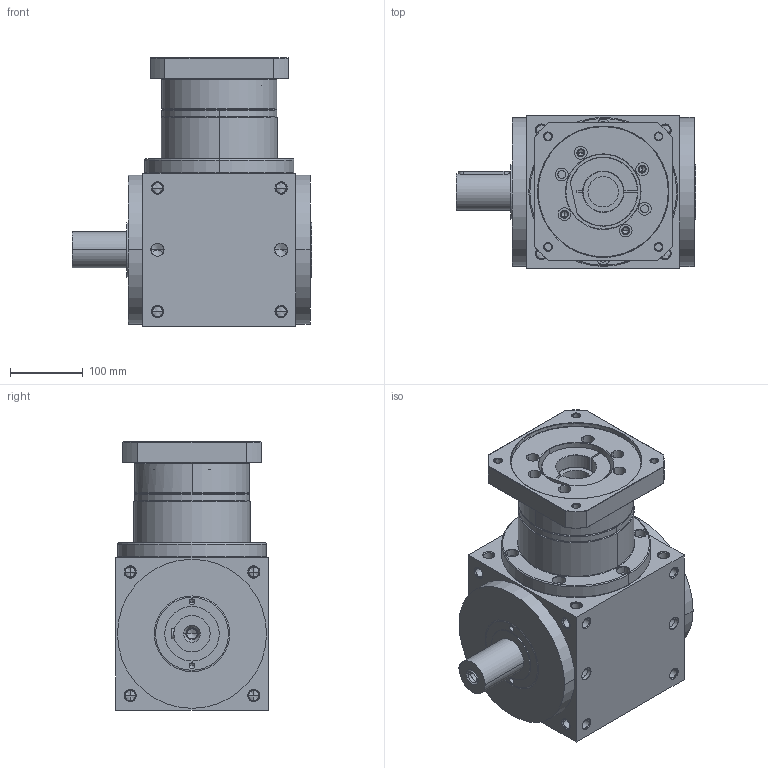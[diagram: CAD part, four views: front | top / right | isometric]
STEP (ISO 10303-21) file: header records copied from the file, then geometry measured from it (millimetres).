
FILE_DESCRIPTION((''),'2;1');
FILE_NAME('AT210FL11-P0403600601_ASM','2009-02-17T',('d00080'),(''),'PRO/ENGINEER BY PARAMETRIC TECHNOLOGY CORPORATION, 2006170','PRO/ENGINEER BY PARAMETRIC TECHNOLOGY CORPORATION, 2006170','');
FILE_SCHEMA(('CONFIG_CONTROL_DESIGN'));
Length unit declared in the file: millimetre
Products named in the file (6): AT210FL1-A; P1801800001; P1502800001; P0501600001; P0403600601; AT210FL11-P0403600601_ASM
Assembly tree (5 placements, depth 2):
  AT210FL11-P0403600601_ASM
    AT210FL1-A
    P1801800001
    P1502800001
    P0501600001
    P0403600601
Bounding box: 329 x 210 x 369 mm (x, y, z)
Volume: 12792652.8 mm3; surface area: 727662.3 mm2
Topology: 5 solids, 48 shells, 830 faces, 2078 edges, 1254 vertices
Faces by surface type: cylinder 370, cone 300, plane 126, torus 34
Entity records: 25525 total; most frequent: CARTESIAN_POINT 5505, DIRECTION 4509, ORIENTED_EDGE 3804, EDGE_CURVE 1988, AXIS2_PLACEMENT_3D 1897, VERTEX_POINT 1254, CIRCLE 1046, EDGE_LOOP 1004
